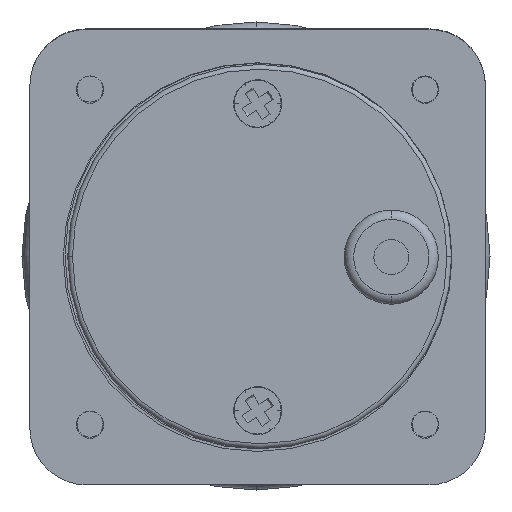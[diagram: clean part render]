
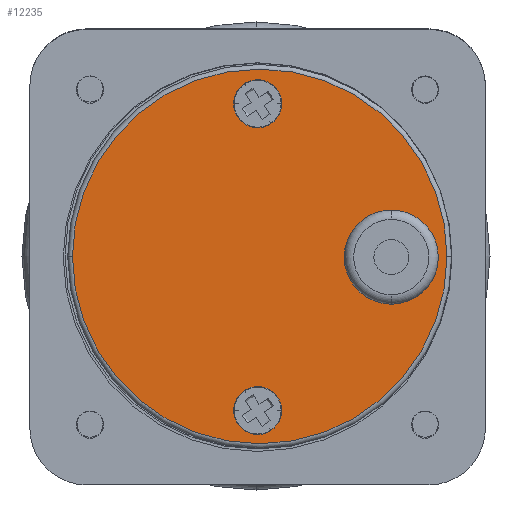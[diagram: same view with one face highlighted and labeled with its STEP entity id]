
A CAD part, front view. The second image highlights one B-rep face of the part: STEP entity #12235.
In plain terms, the highlighted planar face has unit normal (0, -1, 0).
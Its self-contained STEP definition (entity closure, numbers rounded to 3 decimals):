
#5969 = CARTESIAN_POINT ( 'NONE',  ( -16.3, 0., -2.5 ) ) ;
#5970 = DIRECTION ( 'NONE',  ( 0., 0., 1. ) ) ;
#5971 = DIRECTION ( 'NONE',  ( 0., 1., 0. ) ) ;
#5972 = CARTESIAN_POINT ( 'NONE',  ( -16.3, 0., 0. ) ) ;
#5973 = AXIS2_PLACEMENT_3D ( 'NONE', #5972, #5971, #5970 ) ;
#5974 = CIRCLE ( 'NONE', #5973, 2.5 ) ;
#5975 = CARTESIAN_POINT ( 'NONE',  ( -16.3, 0., 2.5 ) ) ;
#6072 = CARTESIAN_POINT ( 'NONE',  ( 16.3, 0., -2.5 ) ) ;
#6073 = DIRECTION ( 'NONE',  ( 0., 0., 1. ) ) ;
#6074 = DIRECTION ( 'NONE',  ( 0., 1., 0. ) ) ;
#6075 = CARTESIAN_POINT ( 'NONE',  ( 16.3, 0., 0. ) ) ;
#6076 = AXIS2_PLACEMENT_3D ( 'NONE', #6075, #6074, #6073 ) ;
#6077 = CIRCLE ( 'NONE', #6076, 2.5 ) ;
#6078 = CARTESIAN_POINT ( 'NONE',  ( 16.3, 0., 2.5 ) ) ;
#6130 = CARTESIAN_POINT ( 'NONE',  ( 0., 0., -9.315 ) ) ;
#6184 = FACE_BOUND ( 'NONE', #12297, .T. ) ;
#6185 = FACE_BOUND ( 'NONE', #12293, .T. ) ;
#6186 = FACE_BOUND ( 'NONE', #9960, .T. ) ;
#6242 = DIRECTION ( 'NONE',  ( 0., 0., 1. ) ) ;
#6243 = DIRECTION ( 'NONE',  ( 0., 1., 0. ) ) ;
#6244 = CARTESIAN_POINT ( 'NONE',  ( 0.074, 0., -0.22 ) ) ;
#6245 = AXIS2_PLACEMENT_3D ( 'NONE', #6244, #6243, #6242 ) ;
#6246 = PLANE ( 'NONE',  #6245 ) ;
#6247 = FACE_OUTER_BOUND ( 'NONE', #12301, .T. ) ;
#6249 = DIRECTION ( 'NONE',  ( 0., 0., 1. ) ) ;
#6250 = DIRECTION ( 'NONE',  ( 0., -1., 0. ) ) ;
#6251 = CARTESIAN_POINT ( 'NONE',  ( 0.074, 0., -0.22 ) ) ;
#6252 = AXIS2_PLACEMENT_3D ( 'NONE', #6251, #6250, #6249 ) ;
#6253 = CIRCLE ( 'NONE', #6252, 19.9 ) ;
#6265 = CARTESIAN_POINT ( 'NONE',  ( 0., 0., -19.085 ) ) ;
#6266 = DIRECTION ( 'NONE',  ( 0., 0., -1. ) ) ;
#6267 = DIRECTION ( 'NONE',  ( 0., -1., 0. ) ) ;
#6268 = CARTESIAN_POINT ( 'NONE',  ( 0., 0., -14.2 ) ) ;
#6269 = AXIS2_PLACEMENT_3D ( 'NONE', #6268, #6267, #6266 ) ;
#6270 = CIRCLE ( 'NONE', #6269, 4.885 ) ;
#6285 = DIRECTION ( 'NONE',  ( 0., 0., 1. ) ) ;
#6286 = DIRECTION ( 'NONE',  ( 0., -1., 0. ) ) ;
#6287 = CARTESIAN_POINT ( 'NONE',  ( 0.074, 0., -0.22 ) ) ;
#6288 = AXIS2_PLACEMENT_3D ( 'NONE', #6287, #6286, #6285 ) ;
#6289 = CIRCLE ( 'NONE', #6288, 19.9 ) ;
#6311 = CARTESIAN_POINT ( 'NONE',  ( 0.074, 0., 19.68 ) ) ;
#6312 = CARTESIAN_POINT ( 'NONE',  ( 0.074, 0., -20.12 ) ) ;
#6313 = DIRECTION ( 'NONE',  ( 0., 0., 1. ) ) ;
#6314 = DIRECTION ( 'NONE',  ( 0., 1., 0. ) ) ;
#6315 = CARTESIAN_POINT ( 'NONE',  ( -16.3, 0., 0. ) ) ;
#6316 = AXIS2_PLACEMENT_3D ( 'NONE', #6315, #6314, #6313 ) ;
#6317 = CIRCLE ( 'NONE', #6316, 2.5 ) ;
#6318 = CARTESIAN_POINT ( 'NONE',  ( 0., 0., -14.2 ) ) ;
#6319 = DIRECTION ( 'NONE',  ( 0., 0., 1. ) ) ;
#6320 = DIRECTION ( 'NONE',  ( 0., 1., 0. ) ) ;
#6321 = CARTESIAN_POINT ( 'NONE',  ( 16.3, 0., 0. ) ) ;
#6322 = AXIS2_PLACEMENT_3D ( 'NONE', #6321, #6320, #6319 ) ;
#6323 = CIRCLE ( 'NONE', #6322, 2.5 ) ;
#6373 = DIRECTION ( 'NONE',  ( 0., 0., -1. ) ) ;
#6374 = DIRECTION ( 'NONE',  ( 0., -1., 0. ) ) ;
#6375 = AXIS2_PLACEMENT_3D ( 'NONE', #6318, #6374, #6373 ) ;
#6376 = CIRCLE ( 'NONE', #6375, 4.885 ) ;
#9960 = EDGE_LOOP ( 'NONE', ( #12290, #12291 ) ) ;
#12109 = VERTEX_POINT ( 'NONE', #5975 ) ;
#12111 = EDGE_CURVE ( 'NONE', #12112, #12109, #5974, .T. ) ;
#12112 = VERTEX_POINT ( 'NONE', #5969 ) ;
#12170 = VERTEX_POINT ( 'NONE', #6078 ) ;
#12172 = EDGE_CURVE ( 'NONE', #12173, #12170, #6077, .T. ) ;
#12173 = VERTEX_POINT ( 'NONE', #6072 ) ;
#12196 = VERTEX_POINT ( 'NONE', #6130 ) ;
#12235 = ADVANCED_FACE ( 'NONE', ( #6186, #6185, #6184, #6247 ), #6246, .F. ) ;
#12253 = EDGE_CURVE ( 'NONE', #12196, #12254, #6270, .T. ) ;
#12254 = VERTEX_POINT ( 'NONE', #6265 ) ;
#12260 = EDGE_CURVE ( 'NONE', #12261, #12262, #6253, .T. ) ;
#12261 = VERTEX_POINT ( 'NONE', #6312 ) ;
#12262 = VERTEX_POINT ( 'NONE', #6311 ) ;
#12275 = ORIENTED_EDGE ( 'NONE', *, *, #12276, .T. ) ;
#12276 = EDGE_CURVE ( 'NONE', #12262, #12261, #6289, .T. ) ;
#12277 = ORIENTED_EDGE ( 'NONE', *, *, #12260, .T. ) ;
#12290 = ORIENTED_EDGE ( 'NONE', *, *, #12172, .T. ) ;
#12291 = ORIENTED_EDGE ( 'NONE', *, *, #12292, .T. ) ;
#12292 = EDGE_CURVE ( 'NONE', #12170, #12173, #6323, .T. ) ;
#12293 = EDGE_LOOP ( 'NONE', ( #12294, #12295 ) ) ;
#12294 = ORIENTED_EDGE ( 'NONE', *, *, #12111, .T. ) ;
#12295 = ORIENTED_EDGE ( 'NONE', *, *, #12296, .T. ) ;
#12296 = EDGE_CURVE ( 'NONE', #12109, #12112, #6317, .T. ) ;
#12297 = EDGE_LOOP ( 'NONE', ( #12298, #12300 ) ) ;
#12298 = ORIENTED_EDGE ( 'NONE', *, *, #12299, .F. ) ;
#12299 = EDGE_CURVE ( 'NONE', #12254, #12196, #6376, .T. ) ;
#12300 = ORIENTED_EDGE ( 'NONE', *, *, #12253, .F. ) ;
#12301 = EDGE_LOOP ( 'NONE', ( #12275, #12277 ) ) ;
